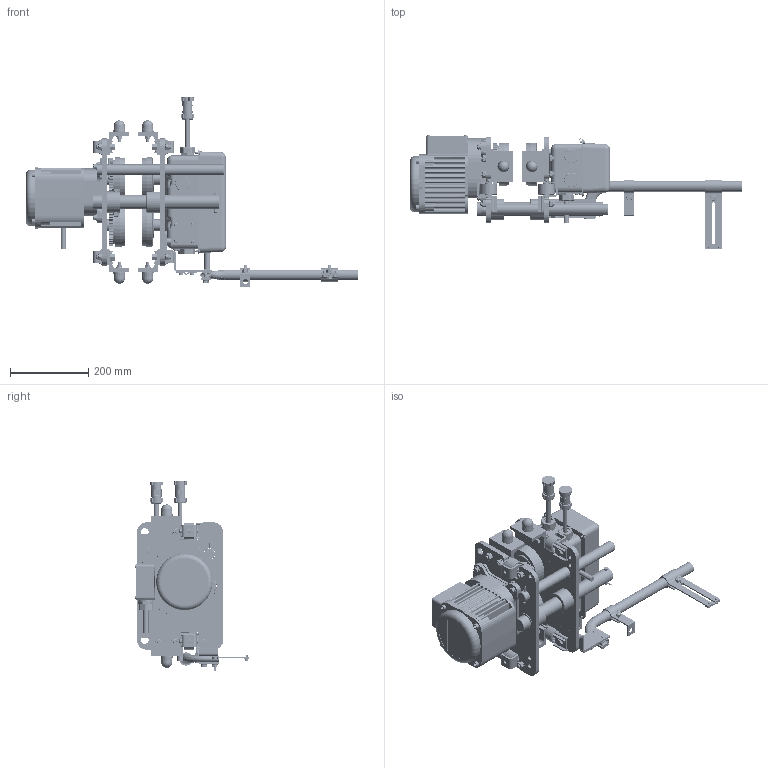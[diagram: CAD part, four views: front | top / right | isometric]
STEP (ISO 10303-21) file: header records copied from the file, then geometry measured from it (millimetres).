
FILE_DESCRIPTION (( 'STEP AP214' ), '1' );
FILE_NAME ('MR2020S.STEP', '2026-08-10T14:23:09', ( '' ), ( '' ), 'SwSTEP 2.0', 'SolidWorks 2026', '' );
FILE_SCHEMA (( 'AUTOMOTIVE_DESIGN' ));
Length unit declared in the file: inch
Products named in the file (95): ECP6912AA; 9012711_9012711; MR1ES9205; ECP5924AC1; MR1ES9202; MR1DS9481; 9009446_9009446; MR1ES9204; KITO-WASHER; ECP5924AH; MR1ES9634; 9009432_9009432; M6SE020S9102; 70130XX_7013002; MSF115020; MR1DS1481; 9093351_9093351; M7SE020S91422; 9047252_9047252; MR2DI1811; T3P154020_T3P154020; MR2020S; MR1DS1491; MR1ES12112; MR1DS9501; MR1DS9631; MR1DS9248; ECP6916AA; MR1DS9496; MR2DS2811; MR1ES9203; MS527010; MS104020; 6077801; MR2DS1759; 90912134; MR1DS9421; 6304Z Bearing; 9093427_9093427; ECP5924AB1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
Assembly tree (234 placements, depth 5):
  MR2020S
    MR1ES5202
      MR1ES9202
      MR1ES9203  x2
      MR1ES9205
    MSF115020
    MS1101020  x2
      M6SE020S91013
      6304Z Bearing
      9047252_9047252
    MR1ES5201
      MR1ES9201
      MR1ES9203  x2
      MR1ES9204
    MS1102020  x2
      M6SE020S9102
      6304Z Bearing
      9047252_9047252
    MS006020  x4
    MR1ES12112  x2
      M7SE020S91422
      J1PS31-050025
      MR1ES22111
      MR2DS92171
      MR1ES92151
      MR1ES9218
    MR1ES12112_Reversed  x2
      M7SE020S91422
      J1PS31-050025
      MR1ES22111
      MR2DS92171
      MR1ES92151
      MR1ES9218
    9093351_9093351  x4
    9012712_9012712  x14
    9093427_9093427  x12
    MR1ES9634  x4
    9093352_9093352  x8
    MR1DS9631  x4
    9012711_9012711  x8
    9093424_9093424  x4
    MS161020
    MS164020
    9009432_9009432
    MR1ES9131
    9009446_9009446  x2
    70130XX_7013002
      MR1DS9411
      MR1DS9401_1 - 8 TON & 10 L TON
      MR1DS9421
      MS554010  x12
      MR2DS2811
        ECP5924AH
        MS527010
        MR2DI1811
        ES558003  x4
      MS517010  x4
      MS551010  x4
      MR2DS1768
        60704
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Bounding box: 846.89 x 291.18 x 482.18 mm (x, y, z)
Volume: 6571015.6 mm3; surface area: 2077982.9 mm2
Topology: 263 solids, 279 shells, 10168 faces, 26857 edges, 17498 vertices
Faces by surface type: plane 4828, cylinder 2838, cone 1354, bspline 628, torus 416, sphere 104
Entity records: 205919 total; most frequent: CARTESIAN_POINT 78162, ORIENTED_EDGE 26462, DIRECTION 24562, EDGE_CURVE 13233, AXIS2_PLACEMENT_3D 8986, VERTEX_POINT 8786, VECTOR 6590, LINE 6590
